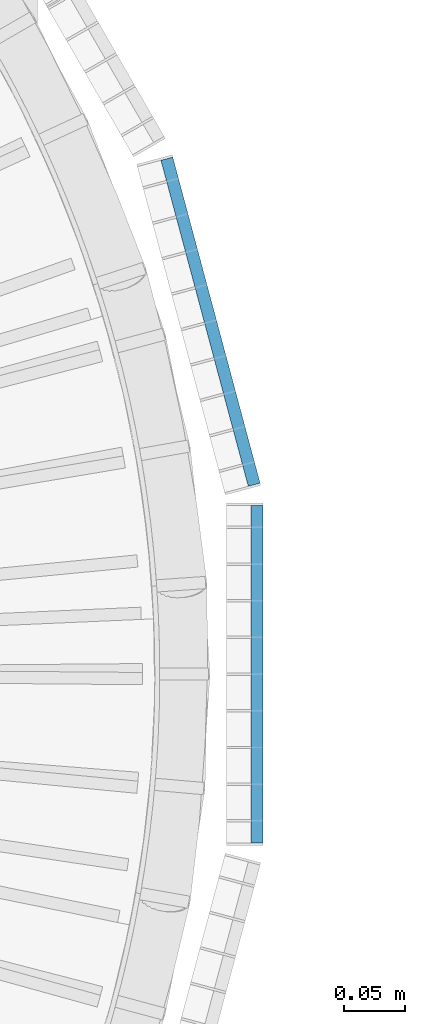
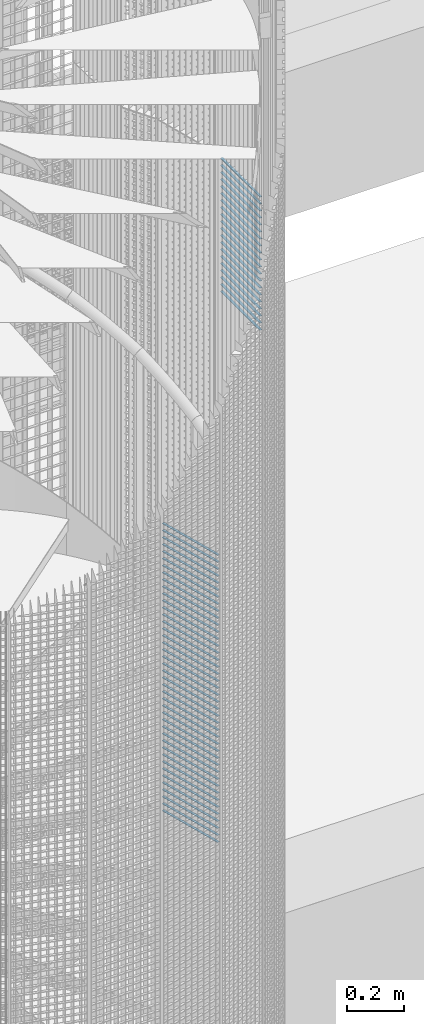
# One storey, part 271 of 1148: 62 beams, 2 elements without a shape of their own.
"""IFC2X3 building model written with IfcOpenShell, lengths in millimetres."""

from ifc_helpers import new_model, si_unit, frame, origin_with_axes, origin_2d_with_axis, place, context, subcontext, project, spatial, rectangle, extrude, material, type_object, element, aggregate, save


model = new_model("IFC2X3")

# Units and contexts
model_context = context("Model", 3, precision=1e-05, world=origin_with_axes())
body_context = subcontext(model_context, "Body", "Model", "MODEL_VIEW")
ifc_project = project(units=[si_unit("LENGTHUNIT", "METRE", prefix="MILLI"), si_unit("AREAUNIT", "SQUARE_METRE"), si_unit("VOLUMEUNIT", "CUBIC_METRE"), si_unit("MASSUNIT", "GRAM", prefix="KILO"), si_unit("TIMEUNIT", "SECOND"), si_unit("PLANEANGLEUNIT", "RADIAN"), si_unit("SOLIDANGLEUNIT", "STERADIAN"), si_unit("THERMODYNAMICTEMPERATUREUNIT", "DEGREE_CELSIUS"), si_unit("LUMINOUSINTENSITYUNIT", "LUMEN")], contexts=[model_context])

# Site, building, storey
site_placement = place(None, origin_with_axes())
site = spatial("IfcSite", under=ifc_project, at=site_placement, Name="Undefined", CompositionType="ELEMENT")
building_placement = place(site_placement, origin_with_axes())
building = spatial("IfcBuilding", under=site, at=building_placement, Name="Undefined", CompositionType="ELEMENT")
storey_placement = place(building_placement, origin_with_axes())
storey = spatial("IfcBuildingStorey", under=building, at=storey_placement, Name="Undefined", CompositionType="ELEMENT", Elevation=0.0)

# Assembly, beams
assembly_1_placement = place(storey_placement, origin_with_axes())
assembly_1 = element("IfcElementAssembly", 1, at=assembly_1_placement, inside=storey, Name="BORDURE", AssemblyPlace="NOTDEFINED", PredefinedType="NOTDEFINED")
ifc_material = material(Name="STEEL/S235JR")
beam_type = type_object("IfcBeamType", Name="PL2*10", PredefinedType="NOTDEFINED")
beam_1_placement = place(assembly_1_placement, frame((1111.25508286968, 154.895926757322, 13260.0), z_axis=(0.965925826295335, 0.258819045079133, 0.0), x_axis=(-0.258819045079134, 0.965925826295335, 0.0)))
beam_1 = element("IfcBeam", 2, at=beam_1_placement, type_object=beam_type, material=ifc_material, Name="ENTRETOISE", context=body_context, shape_type="SweptSolid", body=[
    extrude(rectangle(XDim=2.0, YDim=10.0, at=origin_2d_with_axis()), frame((275.999999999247, 9.09494701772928e-13, 1.53210777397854e-14), z_axis=(-1.0, 0.0, 0.0), x_axis=(0.0, -1.0, 0.0)), (0.0, 0.0, 1.0), 276.0),
])
beam_2_placement = place(assembly_1_placement, frame((1111.25508286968, 154.895926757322, 13230.0), z_axis=(0.965925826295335, 0.258819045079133, 0.0), x_axis=(-0.258819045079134, 0.965925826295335, 0.0)))
beam_2 = element("IfcBeam", 3, at=beam_2_placement, type_object=beam_type, material=ifc_material, Name="ENTRETOISE", context=body_context, shape_type="SweptSolid", body=[
    extrude(rectangle(XDim=2.0, YDim=10.0, at=origin_2d_with_axis()), frame((275.999999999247, 9.09494701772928e-13, 1.53210777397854e-14), z_axis=(-1.0, 0.0, 0.0), x_axis=(0.0, -1.0, 0.0)), (0.0, 0.0, 1.0), 276.0),
])
beam_3_placement = place(assembly_1_placement, frame((1111.25508286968, 154.895926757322, 13200.0), z_axis=(0.965925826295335, 0.258819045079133, 0.0), x_axis=(-0.258819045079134, 0.965925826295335, 0.0)))
beam_3 = element("IfcBeam", 4, at=beam_3_placement, type_object=beam_type, material=ifc_material, Name="ENTRETOISE", context=body_context, shape_type="SweptSolid", body=[
    extrude(rectangle(XDim=2.0, YDim=10.0, at=origin_2d_with_axis()), frame((275.999999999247, 9.09494701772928e-13, 1.53210777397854e-14), z_axis=(-1.0, 0.0, 0.0), x_axis=(0.0, -1.0, 0.0)), (0.0, 0.0, 1.0), 276.0),
])
beam_4_placement = place(assembly_1_placement, frame((1111.25508286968, 154.895926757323, 13170.0), z_axis=(0.965925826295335, 0.258819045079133, 0.0), x_axis=(-0.258819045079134, 0.965925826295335, 0.0)))
beam_4 = element("IfcBeam", 5, at=beam_4_placement, type_object=beam_type, material=ifc_material, Name="ENTRETOISE", context=body_context, shape_type="SweptSolid", body=[
    extrude(rectangle(XDim=2.0, YDim=10.0, at=origin_2d_with_axis()), frame((275.999999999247, 9.09494701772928e-13, 1.53210777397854e-14), z_axis=(-1.0, 0.0, 0.0), x_axis=(0.0, -1.0, 0.0)), (0.0, 0.0, 1.0), 276.0),
])
beam_5_placement = place(assembly_1_placement, frame((1111.25508286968, 154.895926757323, 13140.0), z_axis=(0.965925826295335, 0.258819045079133, 0.0), x_axis=(-0.258819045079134, 0.965925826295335, 0.0)))
beam_5 = element("IfcBeam", 6, at=beam_5_placement, type_object=beam_type, material=ifc_material, Name="ENTRETOISE", context=body_context, shape_type="SweptSolid", body=[
    extrude(rectangle(XDim=2.0, YDim=10.0, at=origin_2d_with_axis()), frame((275.999999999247, 9.09494701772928e-13, 1.53210777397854e-14), z_axis=(-1.0, 0.0, 0.0), x_axis=(0.0, -1.0, 0.0)), (0.0, 0.0, 1.0), 276.0),
])
beam_6_placement = place(assembly_1_placement, frame((1111.25508286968, 154.895926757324, 12720.0), z_axis=(0.965925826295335, 0.258819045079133, 0.0), x_axis=(-0.258819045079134, 0.965925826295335, 0.0)))
beam_6 = element("IfcBeam", 7, at=beam_6_placement, type_object=beam_type, material=ifc_material, Name="ENTRETOISE", context=body_context, shape_type="SweptSolid", body=[
    extrude(rectangle(XDim=2.0, YDim=10.0, at=origin_2d_with_axis()), frame((275.999999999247, 9.09494701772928e-13, 1.53210777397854e-14), z_axis=(-1.0, 0.0, 0.0), x_axis=(0.0, -1.0, 0.0)), (0.0, 0.0, 1.0), 276.0),
])
beam_7_placement = place(assembly_1_placement, frame((1111.25508286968, 154.895926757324, 12690.0), z_axis=(0.965925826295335, 0.258819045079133, 0.0), x_axis=(-0.258819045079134, 0.965925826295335, 0.0)))
beam_7 = element("IfcBeam", 8, at=beam_7_placement, type_object=beam_type, material=ifc_material, Name="ENTRETOISE", context=body_context, shape_type="SweptSolid", body=[
    extrude(rectangle(XDim=2.0, YDim=10.0, at=origin_2d_with_axis()), frame((275.999999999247, 9.09494701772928e-13, 1.53210777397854e-14), z_axis=(-1.0, 0.0, 0.0), x_axis=(0.0, -1.0, 0.0)), (0.0, 0.0, 1.0), 276.0),
])
beam_8_placement = place(assembly_1_placement, frame((1111.25508286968, 154.895926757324, 12750.0), z_axis=(0.965925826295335, 0.258819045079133, 0.0), x_axis=(-0.258819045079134, 0.965925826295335, 0.0)))
beam_8 = element("IfcBeam", 9, at=beam_8_placement, type_object=beam_type, material=ifc_material, Name="ENTRETOISE", context=body_context, shape_type="SweptSolid", body=[
    extrude(rectangle(XDim=2.0, YDim=10.0, at=origin_2d_with_axis()), frame((275.999999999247, 9.09494701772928e-13, 1.53210777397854e-14), z_axis=(-1.0, 0.0, 0.0), x_axis=(0.0, -1.0, 0.0)), (0.0, 0.0, 1.0), 276.0),
])
beam_9_placement = place(assembly_1_placement, frame((1111.25508286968, 154.895926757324, 12660.0), z_axis=(0.965925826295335, 0.258819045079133, 0.0), x_axis=(-0.258819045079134, 0.965925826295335, 0.0)))
beam_9 = element("IfcBeam", 10, at=beam_9_placement, type_object=beam_type, material=ifc_material, Name="ENTRETOISE", context=body_context, shape_type="SweptSolid", body=[
    extrude(rectangle(XDim=2.0, YDim=10.0, at=origin_2d_with_axis()), frame((275.999999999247, 9.09494701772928e-13, 1.53210777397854e-14), z_axis=(-1.0, 0.0, 0.0), x_axis=(0.0, -1.0, 0.0)), (0.0, 0.0, 1.0), 276.0),
])
beam_10_placement = place(assembly_1_placement, frame((1111.25508286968, 154.895926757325, 12630.0), z_axis=(0.965925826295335, 0.258819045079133, 0.0), x_axis=(-0.258819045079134, 0.965925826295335, 0.0)))
beam_10 = element("IfcBeam", 11, at=beam_10_placement, type_object=beam_type, material=ifc_material, Name="ENTRETOISE", context=body_context, shape_type="SweptSolid", body=[
    extrude(rectangle(XDim=2.0, YDim=10.0, at=origin_2d_with_axis()), frame((275.999999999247, 9.09494701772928e-13, 1.53210777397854e-14), z_axis=(-1.0, 0.0, 0.0), x_axis=(0.0, -1.0, 0.0)), (0.0, 0.0, 1.0), 276.0),
])
beam_11_placement = place(assembly_1_placement, frame((1111.25508286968, 154.895926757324, 12780.0), z_axis=(0.965925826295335, 0.258819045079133, 0.0), x_axis=(-0.258819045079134, 0.965925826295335, 0.0)))
beam_11 = element("IfcBeam", 12, at=beam_11_placement, type_object=beam_type, material=ifc_material, Name="ENTRETOISE", context=body_context, shape_type="SweptSolid", body=[
    extrude(rectangle(XDim=2.0, YDim=10.0, at=origin_2d_with_axis()), frame((275.999999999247, 9.09494701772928e-13, 1.53210777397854e-14), z_axis=(-1.0, 0.0, 0.0), x_axis=(0.0, -1.0, 0.0)), (0.0, 0.0, 1.0), 276.0),
])
beam_12_placement = place(assembly_1_placement, frame((1111.25508286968, 154.895926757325, 12600.0), z_axis=(0.965925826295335, 0.258819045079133, 0.0), x_axis=(-0.258819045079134, 0.965925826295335, 0.0)))
beam_12 = element("IfcBeam", 13, at=beam_12_placement, type_object=beam_type, material=ifc_material, Name="ENTRETOISE", context=body_context, shape_type="SweptSolid", body=[
    extrude(rectangle(XDim=2.0, YDim=10.0, at=origin_2d_with_axis()), frame((275.999999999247, 9.09494701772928e-13, 1.53210777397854e-14), z_axis=(-1.0, 0.0, 0.0), x_axis=(0.0, -1.0, 0.0)), (0.0, 0.0, 1.0), 276.0),
])
beam_13_placement = place(assembly_1_placement, frame((1111.25508286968, 154.895926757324, 12810.0), z_axis=(0.965925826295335, 0.258819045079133, 0.0), x_axis=(-0.258819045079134, 0.965925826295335, 0.0)))
beam_13 = element("IfcBeam", 14, at=beam_13_placement, type_object=beam_type, material=ifc_material, Name="ENTRETOISE", context=body_context, shape_type="SweptSolid", body=[
    extrude(rectangle(XDim=2.0, YDim=10.0, at=origin_2d_with_axis()), frame((275.999999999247, 9.09494701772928e-13, 1.53210777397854e-14), z_axis=(-1.0, 0.0, 0.0), x_axis=(0.0, -1.0, 0.0)), (0.0, 0.0, 1.0), 276.0),
])
beam_14_placement = place(assembly_1_placement, frame((1111.25508286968, 154.895926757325, 12570.0), z_axis=(0.965925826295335, 0.258819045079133, 0.0), x_axis=(-0.258819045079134, 0.965925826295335, 0.0)))
beam_14 = element("IfcBeam", 15, at=beam_14_placement, type_object=beam_type, material=ifc_material, Name="ENTRETOISE", context=body_context, shape_type="SweptSolid", body=[
    extrude(rectangle(XDim=2.0, YDim=10.0, at=origin_2d_with_axis()), frame((275.999999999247, 9.09494701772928e-13, 1.53210777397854e-14), z_axis=(-1.0, 0.0, 0.0), x_axis=(0.0, -1.0, 0.0)), (0.0, 0.0, 1.0), 276.0),
])
beam_15_placement = place(assembly_1_placement, frame((1111.25508286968, 154.895926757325, 12540.0), z_axis=(0.965925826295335, 0.258819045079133, 0.0), x_axis=(-0.258819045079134, 0.965925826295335, 0.0)))
beam_15 = element("IfcBeam", 16, at=beam_15_placement, type_object=beam_type, material=ifc_material, Name="ENTRETOISE", context=body_context, shape_type="SweptSolid", body=[
    extrude(rectangle(XDim=2.0, YDim=10.0, at=origin_2d_with_axis()), frame((275.999999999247, 9.09494701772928e-13, 1.53210777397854e-14), z_axis=(-1.0, 0.0, 0.0), x_axis=(0.0, -1.0, 0.0)), (0.0, 0.0, 1.0), 276.0),
])
beam_16_placement = place(assembly_1_placement, frame((1111.25508286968, 154.895926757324, 12840.0), z_axis=(0.965925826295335, 0.258819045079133, 0.0), x_axis=(-0.258819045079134, 0.965925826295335, 0.0)))
beam_16 = element("IfcBeam", 17, at=beam_16_placement, type_object=beam_type, material=ifc_material, Name="ENTRETOISE", context=body_context, shape_type="SweptSolid", body=[
    extrude(rectangle(XDim=2.0, YDim=10.0, at=origin_2d_with_axis()), frame((275.999999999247, 9.09494701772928e-13, 1.53210777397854e-14), z_axis=(-1.0, 0.0, 0.0), x_axis=(0.0, -1.0, 0.0)), (0.0, 0.0, 1.0), 276.0),
])
beam_17_placement = place(assembly_1_placement, frame((1111.25508286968, 154.895926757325, 12510.0), z_axis=(0.965925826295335, 0.258819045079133, 0.0), x_axis=(-0.258819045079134, 0.965925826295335, 0.0)))
beam_17 = element("IfcBeam", 18, at=beam_17_placement, type_object=beam_type, material=ifc_material, Name="ENTRETOISE", context=body_context, shape_type="SweptSolid", body=[
    extrude(rectangle(XDim=2.0, YDim=10.0, at=origin_2d_with_axis()), frame((275.999999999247, 9.09494701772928e-13, 1.53210777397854e-14), z_axis=(-1.0, 0.0, 0.0), x_axis=(0.0, -1.0, 0.0)), (0.0, 0.0, 1.0), 276.0),
])
beam_18_placement = place(assembly_1_placement, frame((1111.25508286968, 154.895926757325, 12480.0), z_axis=(0.965925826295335, 0.258819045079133, 0.0), x_axis=(-0.258819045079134, 0.965925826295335, 0.0)))
beam_18 = element("IfcBeam", 19, at=beam_18_placement, type_object=beam_type, material=ifc_material, Name="ENTRETOISE", context=body_context, shape_type="SweptSolid", body=[
    extrude(rectangle(XDim=2.0, YDim=10.0, at=origin_2d_with_axis()), frame((275.999999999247, 9.09494701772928e-13, 1.53210777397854e-14), z_axis=(-1.0, 0.0, 0.0), x_axis=(0.0, -1.0, 0.0)), (0.0, 0.0, 1.0), 276.0),
])
beam_19_placement = place(assembly_1_placement, frame((1111.25508286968, 154.895926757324, 12870.0), z_axis=(0.965925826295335, 0.258819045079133, 0.0), x_axis=(-0.258819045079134, 0.965925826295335, 0.0)))
beam_19 = element("IfcBeam", 20, at=beam_19_placement, type_object=beam_type, material=ifc_material, Name="ENTRETOISE", context=body_context, shape_type="SweptSolid", body=[
    extrude(rectangle(XDim=2.0, YDim=10.0, at=origin_2d_with_axis()), frame((275.999999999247, 9.09494701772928e-13, 1.53210777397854e-14), z_axis=(-1.0, 0.0, 0.0), x_axis=(0.0, -1.0, 0.0)), (0.0, 0.0, 1.0), 276.0),
])
beam_20_placement = place(assembly_1_placement, frame((1111.25508286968, 154.895926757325, 12450.0), z_axis=(0.965925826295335, 0.258819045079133, 0.0), x_axis=(-0.258819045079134, 0.965925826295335, 0.0)))
beam_20 = element("IfcBeam", 21, at=beam_20_placement, type_object=beam_type, material=ifc_material, Name="ENTRETOISE", context=body_context, shape_type="SweptSolid", body=[
    extrude(rectangle(XDim=2.0, YDim=10.0, at=origin_2d_with_axis()), frame((275.999999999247, 9.09494701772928e-13, 1.53210777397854e-14), z_axis=(-1.0, 0.0, 0.0), x_axis=(0.0, -1.0, 0.0)), (0.0, 0.0, 1.0), 276.0),
])
beam_21_placement = place(assembly_1_placement, frame((1111.25508286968, 154.895926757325, 12420.0), z_axis=(0.965925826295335, 0.258819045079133, 0.0), x_axis=(-0.258819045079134, 0.965925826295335, 0.0)))
beam_21 = element("IfcBeam", 22, at=beam_21_placement, type_object=beam_type, material=ifc_material, Name="ENTRETOISE", context=body_context, shape_type="SweptSolid", body=[
    extrude(rectangle(XDim=2.0, YDim=10.0, at=origin_2d_with_axis()), frame((275.999999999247, 9.09494701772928e-13, 1.53210777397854e-14), z_axis=(-1.0, 0.0, 0.0), x_axis=(0.0, -1.0, 0.0)), (0.0, 0.0, 1.0), 276.0),
])
beam_22_placement = place(assembly_1_placement, frame((1111.25508286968, 154.895926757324, 12900.0), z_axis=(0.965925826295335, 0.258819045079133, 0.0), x_axis=(-0.258819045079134, 0.965925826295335, 0.0)))
beam_22 = element("IfcBeam", 23, at=beam_22_placement, type_object=beam_type, material=ifc_material, Name="ENTRETOISE", context=body_context, shape_type="SweptSolid", body=[
    extrude(rectangle(XDim=2.0, YDim=10.0, at=origin_2d_with_axis()), frame((275.999999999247, 9.09494701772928e-13, 1.53210777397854e-14), z_axis=(-1.0, 0.0, 0.0), x_axis=(0.0, -1.0, 0.0)), (0.0, 0.0, 1.0), 276.0),
])
beam_23_placement = place(assembly_1_placement, frame((1111.25508286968, 154.895926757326, 12390.0), z_axis=(0.965925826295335, 0.258819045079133, 0.0), x_axis=(-0.258819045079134, 0.965925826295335, 0.0)))
beam_23 = element("IfcBeam", 24, at=beam_23_placement, type_object=beam_type, material=ifc_material, Name="ENTRETOISE", context=body_context, shape_type="SweptSolid", body=[
    extrude(rectangle(XDim=2.0, YDim=10.0, at=origin_2d_with_axis()), frame((275.999999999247, 9.09494701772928e-13, 1.53210777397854e-14), z_axis=(-1.0, 0.0, 0.0), x_axis=(0.0, -1.0, 0.0)), (0.0, 0.0, 1.0), 276.0),
])
beam_24_placement = place(assembly_1_placement, frame((1111.25508286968, 154.895926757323, 12930.0), z_axis=(0.965925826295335, 0.258819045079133, 0.0), x_axis=(-0.258819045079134, 0.965925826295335, 0.0)))
beam_24 = element("IfcBeam", 25, at=beam_24_placement, type_object=beam_type, material=ifc_material, Name="ENTRETOISE", context=body_context, shape_type="SweptSolid", body=[
    extrude(rectangle(XDim=2.0, YDim=10.0, at=origin_2d_with_axis()), frame((275.999999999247, 9.09494701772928e-13, 1.53210777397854e-14), z_axis=(-1.0, 0.0, 0.0), x_axis=(0.0, -1.0, 0.0)), (0.0, 0.0, 1.0), 276.0),
])
beam_25_placement = place(assembly_1_placement, frame((1111.25508286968, 154.895926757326, 12360.0), z_axis=(0.965925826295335, 0.258819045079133, 0.0), x_axis=(-0.258819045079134, 0.965925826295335, 0.0)))
beam_25 = element("IfcBeam", 26, at=beam_25_placement, type_object=beam_type, material=ifc_material, Name="ENTRETOISE", context=body_context, shape_type="SweptSolid", body=[
    extrude(rectangle(XDim=2.0, YDim=10.0, at=origin_2d_with_axis()), frame((275.999999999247, 9.09494701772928e-13, 1.53210777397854e-14), z_axis=(-1.0, 0.0, 0.0), x_axis=(0.0, -1.0, 0.0)), (0.0, 0.0, 1.0), 276.0),
])
beam_26_placement = place(assembly_1_placement, frame((1111.25508286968, 154.895926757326, 12330.0), z_axis=(0.965925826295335, 0.258819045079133, 0.0), x_axis=(-0.258819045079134, 0.965925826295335, 0.0)))
beam_26 = element("IfcBeam", 27, at=beam_26_placement, type_object=beam_type, material=ifc_material, Name="ENTRETOISE", context=body_context, shape_type="SweptSolid", body=[
    extrude(rectangle(XDim=2.0, YDim=10.0, at=origin_2d_with_axis()), frame((275.999999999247, 9.09494701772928e-13, 1.53210777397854e-14), z_axis=(-1.0, 0.0, 0.0), x_axis=(0.0, -1.0, 0.0)), (0.0, 0.0, 1.0), 276.0),
])
beam_27_placement = place(assembly_1_placement, frame((1111.25508286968, 154.895926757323, 12960.0), z_axis=(0.965925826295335, 0.258819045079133, 0.0), x_axis=(-0.258819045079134, 0.965925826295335, 0.0)))
beam_27 = element("IfcBeam", 28, at=beam_27_placement, type_object=beam_type, material=ifc_material, Name="ENTRETOISE", context=body_context, shape_type="SweptSolid", body=[
    extrude(rectangle(XDim=2.0, YDim=10.0, at=origin_2d_with_axis()), frame((275.999999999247, 9.09494701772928e-13, 1.53210777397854e-14), z_axis=(-1.0, 0.0, 0.0), x_axis=(0.0, -1.0, 0.0)), (0.0, 0.0, 1.0), 276.0),
])
beam_28_placement = place(assembly_1_placement, frame((1111.25508286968, 154.895926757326, 12300.0), z_axis=(0.965925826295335, 0.258819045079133, 0.0), x_axis=(-0.258819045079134, 0.965925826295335, 0.0)))
beam_28 = element("IfcBeam", 29, at=beam_28_placement, type_object=beam_type, material=ifc_material, Name="ENTRETOISE", context=body_context, shape_type="SweptSolid", body=[
    extrude(rectangle(XDim=2.0, YDim=10.0, at=origin_2d_with_axis()), frame((275.999999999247, 9.09494701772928e-13, 1.53210777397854e-14), z_axis=(-1.0, 0.0, 0.0), x_axis=(0.0, -1.0, 0.0)), (0.0, 0.0, 1.0), 276.0),
])
beam_29_placement = place(assembly_1_placement, frame((1111.25508286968, 154.895926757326, 12270.0), z_axis=(0.965925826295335, 0.258819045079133, 0.0), x_axis=(-0.258819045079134, 0.965925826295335, 0.0)))
beam_29 = element("IfcBeam", 30, at=beam_29_placement, type_object=beam_type, material=ifc_material, Name="ENTRETOISE", context=body_context, shape_type="SweptSolid", body=[
    extrude(rectangle(XDim=2.0, YDim=10.0, at=origin_2d_with_axis()), frame((275.999999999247, 9.09494701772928e-13, 1.53210777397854e-14), z_axis=(-1.0, 0.0, 0.0), x_axis=(0.0, -1.0, 0.0)), (0.0, 0.0, 1.0), 276.0),
])
beam_30_placement = place(assembly_1_placement, frame((1111.25508286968, 154.895926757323, 12990.0), z_axis=(0.965925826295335, 0.258819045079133, 0.0), x_axis=(-0.258819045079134, 0.965925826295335, 0.0)))
beam_30 = element("IfcBeam", 31, at=beam_30_placement, type_object=beam_type, material=ifc_material, Name="ENTRETOISE", context=body_context, shape_type="SweptSolid", body=[
    extrude(rectangle(XDim=2.0, YDim=10.0, at=origin_2d_with_axis()), frame((275.999999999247, 9.09494701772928e-13, 1.53210777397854e-14), z_axis=(-1.0, 0.0, 0.0), x_axis=(0.0, -1.0, 0.0)), (0.0, 0.0, 1.0), 276.0),
])
beam_31_placement = place(assembly_1_placement, frame((1111.25508286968, 154.895926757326, 12240.0), z_axis=(0.965925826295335, 0.258819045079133, 0.0), x_axis=(-0.258819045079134, 0.965925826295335, 0.0)))
beam_31 = element("IfcBeam", 32, at=beam_31_placement, type_object=beam_type, material=ifc_material, Name="ENTRETOISE", context=body_context, shape_type="SweptSolid", body=[
    extrude(rectangle(XDim=2.0, YDim=10.0, at=origin_2d_with_axis()), frame((275.999999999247, 9.09494701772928e-13, 1.53210777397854e-14), z_axis=(-1.0, 0.0, 0.0), x_axis=(0.0, -1.0, 0.0)), (0.0, 0.0, 1.0), 276.0),
])
beam_32_placement = place(assembly_1_placement, frame((1111.25508286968, 154.895926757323, 13020.0), z_axis=(0.965925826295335, 0.258819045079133, 0.0), x_axis=(-0.258819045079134, 0.965925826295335, 0.0)))
beam_32 = element("IfcBeam", 33, at=beam_32_placement, type_object=beam_type, material=ifc_material, Name="ENTRETOISE", context=body_context, shape_type="SweptSolid", body=[
    extrude(rectangle(XDim=2.0, YDim=10.0, at=origin_2d_with_axis()), frame((275.999999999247, 9.09494701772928e-13, 1.53210777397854e-14), z_axis=(-1.0, 0.0, 0.0), x_axis=(0.0, -1.0, 0.0)), (0.0, 0.0, 1.0), 276.0),
])
beam_33_placement = place(assembly_1_placement, frame((1111.25508286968, 154.895926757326, 12210.0), z_axis=(0.965925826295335, 0.258819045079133, 0.0), x_axis=(-0.258819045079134, 0.965925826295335, 0.0)))
beam_33 = element("IfcBeam", 34, at=beam_33_placement, type_object=beam_type, material=ifc_material, Name="ENTRETOISE", context=body_context, shape_type="SweptSolid", body=[
    extrude(rectangle(XDim=2.0, YDim=10.0, at=origin_2d_with_axis()), frame((275.999999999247, 9.09494701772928e-13, 1.53210777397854e-14), z_axis=(-1.0, 0.0, 0.0), x_axis=(0.0, -1.0, 0.0)), (0.0, 0.0, 1.0), 276.0),
])
beam_34_placement = place(assembly_1_placement, frame((1111.25508286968, 154.895926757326, 12180.0), z_axis=(0.965925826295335, 0.258819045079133, 0.0), x_axis=(-0.258819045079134, 0.965925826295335, 0.0)))
beam_34 = element("IfcBeam", 35, at=beam_34_placement, type_object=beam_type, material=ifc_material, Name="ENTRETOISE", context=body_context, shape_type="SweptSolid", body=[
    extrude(rectangle(XDim=2.0, YDim=10.0, at=origin_2d_with_axis()), frame((275.999999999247, 9.09494701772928e-13, 1.53210777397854e-14), z_axis=(-1.0, 0.0, 0.0), x_axis=(0.0, -1.0, 0.0)), (0.0, 0.0, 1.0), 276.0),
])
beam_35_placement = place(assembly_1_placement, frame((1111.25508286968, 154.895926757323, 13050.0), z_axis=(0.965925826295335, 0.258819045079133, 0.0), x_axis=(-0.258819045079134, 0.965925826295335, 0.0)))
beam_35 = element("IfcBeam", 36, at=beam_35_placement, type_object=beam_type, material=ifc_material, Name="ENTRETOISE", context=body_context, shape_type="SweptSolid", body=[
    extrude(rectangle(XDim=2.0, YDim=10.0, at=origin_2d_with_axis()), frame((275.999999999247, 9.09494701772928e-13, 1.53210777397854e-14), z_axis=(-1.0, 0.0, 0.0), x_axis=(0.0, -1.0, 0.0)), (0.0, 0.0, 1.0), 276.0),
])
beam_36_placement = place(assembly_1_placement, frame((1111.25508286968, 154.895926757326, 12150.0), z_axis=(0.965925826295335, 0.258819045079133, 0.0), x_axis=(-0.258819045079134, 0.965925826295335, 0.0)))
beam_36 = element("IfcBeam", 37, at=beam_36_placement, type_object=beam_type, material=ifc_material, Name="ENTRETOISE", context=body_context, shape_type="SweptSolid", body=[
    extrude(rectangle(XDim=2.0, YDim=10.0, at=origin_2d_with_axis()), frame((275.999999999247, 9.09494701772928e-13, 1.53210777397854e-14), z_axis=(-1.0, 0.0, 0.0), x_axis=(0.0, -1.0, 0.0)), (0.0, 0.0, 1.0), 276.0),
])
beam_37_placement = place(assembly_1_placement, frame((1111.25508286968, 154.895926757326, 12120.0), z_axis=(0.965925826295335, 0.258819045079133, 0.0), x_axis=(-0.258819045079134, 0.965925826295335, 0.0)))
beam_37 = element("IfcBeam", 38, at=beam_37_placement, type_object=beam_type, material=ifc_material, Name="ENTRETOISE", context=body_context, shape_type="SweptSolid", body=[
    extrude(rectangle(XDim=2.0, YDim=10.0, at=origin_2d_with_axis()), frame((275.999999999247, 9.09494701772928e-13, 1.53210777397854e-14), z_axis=(-1.0, 0.0, 0.0), x_axis=(0.0, -1.0, 0.0)), (0.0, 0.0, 1.0), 276.0),
])
beam_38_placement = place(assembly_1_placement, frame((1111.25508286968, 154.895926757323, 13080.0), z_axis=(0.965925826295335, 0.258819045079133, 0.0), x_axis=(-0.258819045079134, 0.965925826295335, 0.0)))
beam_38 = element("IfcBeam", 39, at=beam_38_placement, type_object=beam_type, material=ifc_material, Name="ENTRETOISE", context=body_context, shape_type="SweptSolid", body=[
    extrude(rectangle(XDim=2.0, YDim=10.0, at=origin_2d_with_axis()), frame((275.999999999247, 9.09494701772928e-13, 1.53210777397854e-14), z_axis=(-1.0, 0.0, 0.0), x_axis=(0.0, -1.0, 0.0)), (0.0, 0.0, 1.0), 276.0),
])
beam_39_placement = place(assembly_1_placement, frame((1111.25508286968, 154.895926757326, 12090.0), z_axis=(0.965925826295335, 0.258819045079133, 0.0), x_axis=(-0.258819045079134, 0.965925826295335, 0.0)))
beam_39 = element("IfcBeam", 40, at=beam_39_placement, type_object=beam_type, material=ifc_material, Name="ENTRETOISE", context=body_context, shape_type="SweptSolid", body=[
    extrude(rectangle(XDim=2.0, YDim=10.0, at=origin_2d_with_axis()), frame((275.999999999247, 9.09494701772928e-13, 1.53210777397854e-14), z_axis=(-1.0, 0.0, 0.0), x_axis=(0.0, -1.0, 0.0)), (0.0, 0.0, 1.0), 276.0),
])
beam_40_placement = place(assembly_1_placement, frame((1111.25508286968, 154.895926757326, 12060.0), z_axis=(0.965925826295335, 0.258819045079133, 0.0), x_axis=(-0.258819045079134, 0.965925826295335, 0.0)))
beam_40 = element("IfcBeam", 41, at=beam_40_placement, type_object=beam_type, material=ifc_material, Name="ENTRETOISE", context=body_context, shape_type="SweptSolid", body=[
    extrude(rectangle(XDim=2.0, YDim=10.0, at=origin_2d_with_axis()), frame((275.999999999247, 9.09494701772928e-13, 1.53210777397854e-14), z_axis=(-1.0, 0.0, 0.0), x_axis=(0.0, -1.0, 0.0)), (0.0, 0.0, 1.0), 276.0),
])
beam_41_placement = place(assembly_1_placement, frame((1111.25508286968, 154.895926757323, 13110.0), z_axis=(0.965925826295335, 0.258819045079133, 0.0), x_axis=(-0.258819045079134, 0.965925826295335, 0.0)))
beam_41 = element("IfcBeam", 42, at=beam_41_placement, type_object=beam_type, material=ifc_material, Name="ENTRETOISE", context=body_context, shape_type="SweptSolid", body=[
    extrude(rectangle(XDim=2.0, YDim=10.0, at=origin_2d_with_axis()), frame((275.999999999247, 9.09494701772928e-13, 1.53210777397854e-14), z_axis=(-1.0, 0.0, 0.0), x_axis=(0.0, -1.0, 0.0)), (0.0, 0.0, 1.0), 276.0),
])
beam_42_placement = place(assembly_1_placement, frame((1111.25508286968, 154.895926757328, 12030.0), z_axis=(0.965925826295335, 0.258819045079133, 0.0), x_axis=(-0.258819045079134, 0.965925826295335, 0.0)))
beam_42 = element("IfcBeam", 43, at=beam_42_placement, type_object=beam_type, material=ifc_material, Name="ENTRETOISE", context=body_context, shape_type="SweptSolid", body=[
    extrude(rectangle(XDim=2.0, YDim=10.0, at=origin_2d_with_axis()), frame((275.999999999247, 9.09494701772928e-13, 1.53210777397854e-14), z_axis=(-1.0, 0.0, 0.0), x_axis=(0.0, -1.0, 0.0)), (0.0, 0.0, 1.0), 276.0),
])
aggregate(assembly_1, [beam_1, beam_2, beam_3, beam_4, beam_5, beam_6, beam_7, beam_8, beam_9, beam_10, beam_11, beam_12, beam_13, beam_14, beam_15, beam_16, beam_17, beam_18, beam_19, beam_20, beam_21, beam_22, beam_23, beam_24, beam_25, beam_26, beam_27, beam_28, beam_29, beam_30, beam_31, beam_32, beam_33, beam_34, beam_35, beam_36, beam_37, beam_38, beam_39, beam_40, beam_41, beam_42])

assembly_2_placement = place(storey_placement, origin_with_axes())
assembly_2 = element("IfcElementAssembly", 44, at=assembly_2_placement, inside=storey, Name="BORDURE", AssemblyPlace="NOTDEFINED", PredefinedType="NOTDEFINED")
beam_43_placement = place(assembly_2_placement, frame((1113.47999999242, -137.996003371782, 14970.0), z_axis=(1.0, 0.0, 0.0), x_axis=(0.0, 1.0, 0.0)))
beam_43 = element("IfcBeam", 45, at=beam_43_placement, type_object=beam_type, material=ifc_material, Name="ENTRETOISE", context=body_context, shape_type="SweptSolid", body=[
    extrude(rectangle(XDim=2.0, YDim=10.0, at=origin_2d_with_axis()), frame((275.999999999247, 9.09494701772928e-13, 1.53210777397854e-14), z_axis=(-1.0, 0.0, 0.0), x_axis=(0.0, -1.0, 0.0)), (0.0, 0.0, 1.0), 276.0),
])
beam_44_placement = place(assembly_2_placement, frame((1113.47999999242, -137.996003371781, 14940.0), z_axis=(1.0, 0.0, 0.0), x_axis=(0.0, 1.0, 0.0)))
beam_44 = element("IfcBeam", 46, at=beam_44_placement, type_object=beam_type, material=ifc_material, Name="ENTRETOISE", context=body_context, shape_type="SweptSolid", body=[
    extrude(rectangle(XDim=2.0, YDim=10.0, at=origin_2d_with_axis()), frame((275.999999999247, 9.09494701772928e-13, 1.53210777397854e-14), z_axis=(-1.0, 0.0, 0.0), x_axis=(0.0, -1.0, 0.0)), (0.0, 0.0, 1.0), 276.0),
])
beam_45_placement = place(assembly_2_placement, frame((1113.47999999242, -137.996003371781, 14910.0), z_axis=(1.0, 0.0, 0.0), x_axis=(0.0, 1.0, 0.0)))
beam_45 = element("IfcBeam", 47, at=beam_45_placement, type_object=beam_type, material=ifc_material, Name="ENTRETOISE", context=body_context, shape_type="SweptSolid", body=[
    extrude(rectangle(XDim=2.0, YDim=10.0, at=origin_2d_with_axis()), frame((275.999999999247, 9.09494701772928e-13, 1.53210777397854e-14), z_axis=(-1.0, 0.0, 0.0), x_axis=(0.0, -1.0, 0.0)), (0.0, 0.0, 1.0), 276.0),
])
beam_46_placement = place(assembly_2_placement, frame((1113.47999999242, -137.996003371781, 14880.0), z_axis=(1.0, 0.0, 0.0), x_axis=(0.0, 1.0, 0.0)))
beam_46 = element("IfcBeam", 48, at=beam_46_placement, type_object=beam_type, material=ifc_material, Name="ENTRETOISE", context=body_context, shape_type="SweptSolid", body=[
    extrude(rectangle(XDim=2.0, YDim=10.0, at=origin_2d_with_axis()), frame((275.999999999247, 9.09494701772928e-13, 1.53210777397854e-14), z_axis=(-1.0, 0.0, 0.0), x_axis=(0.0, -1.0, 0.0)), (0.0, 0.0, 1.0), 276.0),
])
beam_47_placement = place(assembly_2_placement, frame((1113.47999999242, -137.996003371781, 14850.0), z_axis=(1.0, 0.0, 0.0), x_axis=(0.0, 1.0, 0.0)))
beam_47 = element("IfcBeam", 49, at=beam_47_placement, type_object=beam_type, material=ifc_material, Name="ENTRETOISE", context=body_context, shape_type="SweptSolid", body=[
    extrude(rectangle(XDim=2.0, YDim=10.0, at=origin_2d_with_axis()), frame((275.999999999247, 9.09494701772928e-13, 1.53210777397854e-14), z_axis=(-1.0, 0.0, 0.0), x_axis=(0.0, -1.0, 0.0)), (0.0, 0.0, 1.0), 276.0),
])
beam_48_placement = place(assembly_2_placement, frame((1113.47999999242, -137.996003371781, 14820.0), z_axis=(1.0, 0.0, 0.0), x_axis=(0.0, 1.0, 0.0)))
beam_48 = element("IfcBeam", 50, at=beam_48_placement, type_object=beam_type, material=ifc_material, Name="ENTRETOISE", context=body_context, shape_type="SweptSolid", body=[
    extrude(rectangle(XDim=2.0, YDim=10.0, at=origin_2d_with_axis()), frame((275.999999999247, 9.09494701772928e-13, 1.53210777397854e-14), z_axis=(-1.0, 0.0, 0.0), x_axis=(0.0, -1.0, 0.0)), (0.0, 0.0, 1.0), 276.0),
])
beam_49_placement = place(assembly_2_placement, frame((1113.47999999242, -137.996003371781, 14790.0), z_axis=(1.0, 0.0, 0.0), x_axis=(0.0, 1.0, 0.0)))
beam_49 = element("IfcBeam", 51, at=beam_49_placement, type_object=beam_type, material=ifc_material, Name="ENTRETOISE", context=body_context, shape_type="SweptSolid", body=[
    extrude(rectangle(XDim=2.0, YDim=10.0, at=origin_2d_with_axis()), frame((275.999999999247, 9.09494701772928e-13, 1.53210777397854e-14), z_axis=(-1.0, 0.0, 0.0), x_axis=(0.0, -1.0, 0.0)), (0.0, 0.0, 1.0), 276.0),
])
beam_50_placement = place(assembly_2_placement, frame((1113.47999999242, -137.996003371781, 14760.0), z_axis=(1.0, 0.0, 0.0), x_axis=(0.0, 1.0, 0.0)))
beam_50 = element("IfcBeam", 52, at=beam_50_placement, type_object=beam_type, material=ifc_material, Name="ENTRETOISE", context=body_context, shape_type="SweptSolid", body=[
    extrude(rectangle(XDim=2.0, YDim=10.0, at=origin_2d_with_axis()), frame((275.999999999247, 9.09494701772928e-13, 1.53210777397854e-14), z_axis=(-1.0, 0.0, 0.0), x_axis=(0.0, -1.0, 0.0)), (0.0, 0.0, 1.0), 276.0),
])
beam_51_placement = place(assembly_2_placement, frame((1113.47999999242, -137.996003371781, 14730.0), z_axis=(1.0, 0.0, 0.0), x_axis=(0.0, 1.0, 0.0)))
beam_51 = element("IfcBeam", 53, at=beam_51_placement, type_object=beam_type, material=ifc_material, Name="ENTRETOISE", context=body_context, shape_type="SweptSolid", body=[
    extrude(rectangle(XDim=2.0, YDim=10.0, at=origin_2d_with_axis()), frame((275.999999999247, 9.09494701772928e-13, 1.53210777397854e-14), z_axis=(-1.0, 0.0, 0.0), x_axis=(0.0, -1.0, 0.0)), (0.0, 0.0, 1.0), 276.0),
])
beam_52_placement = place(assembly_2_placement, frame((1113.47999999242, -137.996003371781, 14700.0), z_axis=(1.0, 0.0, 0.0), x_axis=(0.0, 1.0, 0.0)))
beam_52 = element("IfcBeam", 54, at=beam_52_placement, type_object=beam_type, material=ifc_material, Name="ENTRETOISE", context=body_context, shape_type="SweptSolid", body=[
    extrude(rectangle(XDim=2.0, YDim=10.0, at=origin_2d_with_axis()), frame((275.999999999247, 9.09494701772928e-13, 1.53210777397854e-14), z_axis=(-1.0, 0.0, 0.0), x_axis=(0.0, -1.0, 0.0)), (0.0, 0.0, 1.0), 276.0),
])
beam_53_placement = place(assembly_2_placement, frame((1113.47999999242, -137.996003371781, 14670.0), z_axis=(1.0, 0.0, 0.0), x_axis=(0.0, 1.0, 0.0)))
beam_53 = element("IfcBeam", 55, at=beam_53_placement, type_object=beam_type, material=ifc_material, Name="ENTRETOISE", context=body_context, shape_type="SweptSolid", body=[
    extrude(rectangle(XDim=2.0, YDim=10.0, at=origin_2d_with_axis()), frame((275.999999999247, 9.09494701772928e-13, 1.53210777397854e-14), z_axis=(-1.0, 0.0, 0.0), x_axis=(0.0, -1.0, 0.0)), (0.0, 0.0, 1.0), 276.0),
])
beam_54_placement = place(assembly_2_placement, frame((1113.47999999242, -137.99600337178, 14640.0), z_axis=(1.0, 0.0, 0.0), x_axis=(0.0, 1.0, 0.0)))
beam_54 = element("IfcBeam", 56, at=beam_54_placement, type_object=beam_type, material=ifc_material, Name="ENTRETOISE", context=body_context, shape_type="SweptSolid", body=[
    extrude(rectangle(XDim=2.0, YDim=10.0, at=origin_2d_with_axis()), frame((275.999999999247, 9.09494701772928e-13, 1.53210777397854e-14), z_axis=(-1.0, 0.0, 0.0), x_axis=(0.0, -1.0, 0.0)), (0.0, 0.0, 1.0), 276.0),
])
beam_55_placement = place(assembly_2_placement, frame((1113.47999999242, -137.99600337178, 14610.0), z_axis=(1.0, 0.0, 0.0), x_axis=(0.0, 1.0, 0.0)))
beam_55 = element("IfcBeam", 57, at=beam_55_placement, type_object=beam_type, material=ifc_material, Name="ENTRETOISE", context=body_context, shape_type="SweptSolid", body=[
    extrude(rectangle(XDim=2.0, YDim=10.0, at=origin_2d_with_axis()), frame((275.999999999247, 9.09494701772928e-13, 1.53210777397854e-14), z_axis=(-1.0, 0.0, 0.0), x_axis=(0.0, -1.0, 0.0)), (0.0, 0.0, 1.0), 276.0),
])
beam_56_placement = place(assembly_2_placement, frame((1113.47999999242, -137.99600337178, 14580.0), z_axis=(1.0, 0.0, 0.0), x_axis=(0.0, 1.0, 0.0)))
beam_56 = element("IfcBeam", 58, at=beam_56_placement, type_object=beam_type, material=ifc_material, Name="ENTRETOISE", context=body_context, shape_type="SweptSolid", body=[
    extrude(rectangle(XDim=2.0, YDim=10.0, at=origin_2d_with_axis()), frame((275.999999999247, 9.09494701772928e-13, 1.53210777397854e-14), z_axis=(-1.0, 0.0, 0.0), x_axis=(0.0, -1.0, 0.0)), (0.0, 0.0, 1.0), 276.0),
])
beam_57_placement = place(assembly_2_placement, frame((1113.47999999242, -137.99600337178, 14550.0), z_axis=(1.0, 0.0, 0.0), x_axis=(0.0, 1.0, 0.0)))
beam_57 = element("IfcBeam", 59, at=beam_57_placement, type_object=beam_type, material=ifc_material, Name="ENTRETOISE", context=body_context, shape_type="SweptSolid", body=[
    extrude(rectangle(XDim=2.0, YDim=10.0, at=origin_2d_with_axis()), frame((275.999999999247, 9.09494701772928e-13, 1.53210777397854e-14), z_axis=(-1.0, 0.0, 0.0), x_axis=(0.0, -1.0, 0.0)), (0.0, 0.0, 1.0), 276.0),
])
beam_58_placement = place(assembly_2_placement, frame((1113.47999999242, -137.99600337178, 14520.0), z_axis=(1.0, 0.0, 0.0), x_axis=(0.0, 1.0, 0.0)))
beam_58 = element("IfcBeam", 60, at=beam_58_placement, type_object=beam_type, material=ifc_material, Name="ENTRETOISE", context=body_context, shape_type="SweptSolid", body=[
    extrude(rectangle(XDim=2.0, YDim=10.0, at=origin_2d_with_axis()), frame((275.999999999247, 9.09494701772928e-13, 1.53210777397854e-14), z_axis=(-1.0, 0.0, 0.0), x_axis=(0.0, -1.0, 0.0)), (0.0, 0.0, 1.0), 276.0),
])
beam_59_placement = place(assembly_2_placement, frame((1113.47999999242, -137.99600337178, 14490.0), z_axis=(1.0, 0.0, 0.0), x_axis=(0.0, 1.0, 0.0)))
beam_59 = element("IfcBeam", 61, at=beam_59_placement, type_object=beam_type, material=ifc_material, Name="ENTRETOISE", context=body_context, shape_type="SweptSolid", body=[
    extrude(rectangle(XDim=2.0, YDim=10.0, at=origin_2d_with_axis()), frame((275.999999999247, 9.09494701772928e-13, 1.53210777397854e-14), z_axis=(-1.0, 0.0, 0.0), x_axis=(0.0, -1.0, 0.0)), (0.0, 0.0, 1.0), 276.0),
])
beam_60_placement = place(assembly_2_placement, frame((1113.47999999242, -137.99600337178, 14460.0), z_axis=(1.0, 0.0, 0.0), x_axis=(0.0, 1.0, 0.0)))
beam_60 = element("IfcBeam", 62, at=beam_60_placement, type_object=beam_type, material=ifc_material, Name="ENTRETOISE", context=body_context, shape_type="SweptSolid", body=[
    extrude(rectangle(XDim=2.0, YDim=10.0, at=origin_2d_with_axis()), frame((275.999999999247, 9.09494701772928e-13, 1.53210777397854e-14), z_axis=(-1.0, 0.0, 0.0), x_axis=(0.0, -1.0, 0.0)), (0.0, 0.0, 1.0), 276.0),
])
beam_61_placement = place(assembly_2_placement, frame((1113.47999999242, -137.99600337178, 14430.0), z_axis=(1.0, 0.0, 0.0), x_axis=(0.0, 1.0, 0.0)))
beam_61 = element("IfcBeam", 63, at=beam_61_placement, type_object=beam_type, material=ifc_material, Name="ENTRETOISE", context=body_context, shape_type="SweptSolid", body=[
    extrude(rectangle(XDim=2.0, YDim=10.0, at=origin_2d_with_axis()), frame((275.999999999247, 9.09494701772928e-13, 1.53210777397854e-14), z_axis=(-1.0, 0.0, 0.0), x_axis=(0.0, -1.0, 0.0)), (0.0, 0.0, 1.0), 276.0),
])
beam_62_placement = place(assembly_2_placement, frame((1113.47999999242, -137.996003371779, 14400.0), z_axis=(1.0, 0.0, 0.0), x_axis=(0.0, 1.0, 0.0)))
beam_62 = element("IfcBeam", 64, at=beam_62_placement, type_object=beam_type, material=ifc_material, Name="ENTRETOISE", context=body_context, shape_type="SweptSolid", body=[
    extrude(rectangle(XDim=2.0, YDim=10.0, at=origin_2d_with_axis()), frame((275.999999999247, 9.09494701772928e-13, 1.53210777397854e-14), z_axis=(-1.0, 0.0, 0.0), x_axis=(0.0, -1.0, 0.0)), (0.0, 0.0, 1.0), 276.0),
])
aggregate(assembly_2, [beam_43, beam_44, beam_45, beam_46, beam_47, beam_48, beam_49, beam_50, beam_51, beam_52, beam_53, beam_54, beam_55, beam_56, beam_57, beam_58, beam_59, beam_60, beam_61, beam_62])

save(model, "model.ifc")
